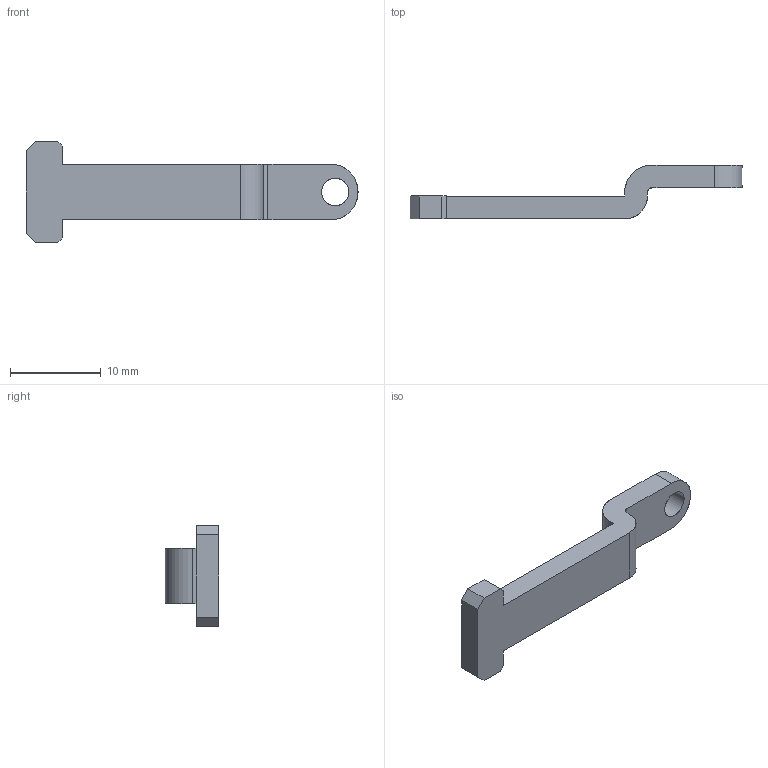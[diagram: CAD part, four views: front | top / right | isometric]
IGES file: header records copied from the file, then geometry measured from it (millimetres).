
Start section: SolidWorks IGES FILE using analytic representation for surfaces
Global section: file name: C:\Documents and Settings\lecoutey\Bureau\GP 30\22.060.10.IGS; native system: SolidWorks 2004 by SolidWorks Corporation; preprocessor: Version 5.3; author: lecoutey; date: 050329.142947; units: millimetre
Bounding box: 36.5 x 5.9 x 11.1 mm (x, y, z)
Surface area: 748 mm2 (no closed solid volume)
Topology: 0 solids, 0 shells, 25 faces, 260 edges, 260 vertices
Faces by surface type: bspline 18, revolution 7
